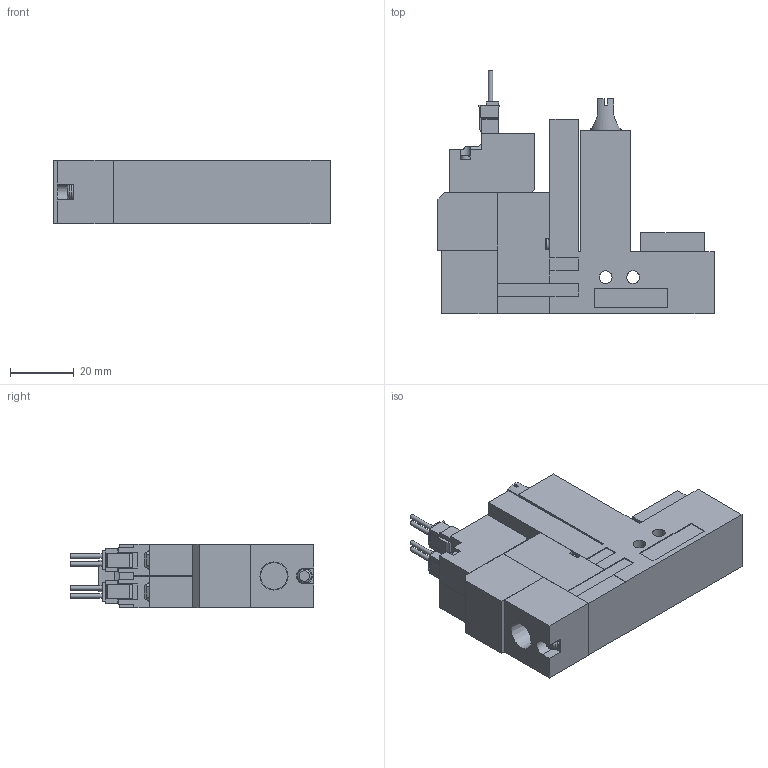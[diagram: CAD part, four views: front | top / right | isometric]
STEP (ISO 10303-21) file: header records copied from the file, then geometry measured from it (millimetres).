
FILE_DESCRIPTION(('STEP AP203'),'1');
FILE_NAME('ZL5BLR.stp','2025-02-16T23:57:23',(' '),(' '),'Spatial InterOp 3D',' ',' ');
FILE_SCHEMA(('CONFIG_CONTROL_DESIGN'));
Length unit declared in the file: millimetre
Products named in the file (5): BMC22S※※※※ZL5BLR; Solenoid valve B; Pressure sensor ZL; Unit L; Base SR10R
Assembly tree (4 placements, depth 2):
  BMC22S※※※※ZL5BLR
    Solenoid valve B
    Pressure sensor ZL
    Unit L
    Base SR10R
Bounding box: 86.6 x 76.45 x 20 mm (x, y, z)
Volume: 76378.5 mm3; surface area: 21394.7 mm2
Topology: 4 solids, 4 shells, 325 faces, 874 edges, 577 vertices
Faces by surface type: plane 284, cylinder 32, cone 6, torus 3
Full cylindrical faces by diameter (mm): 1.4 x4, 2.5 x1, 3 x4, 3.5 x4, 3.6 x1, 4 x2, 4.134 x1, 6 x1
Entity records: 10188 total; most frequent: CARTESIAN_POINT 1837, ORIENTED_EDGE 1680, DIRECTION 1600, EDGE_CURVE 840, LINE 732, VECTOR 732, VERTEX_POINT 571, AXIS2_PLACEMENT_3D 434
